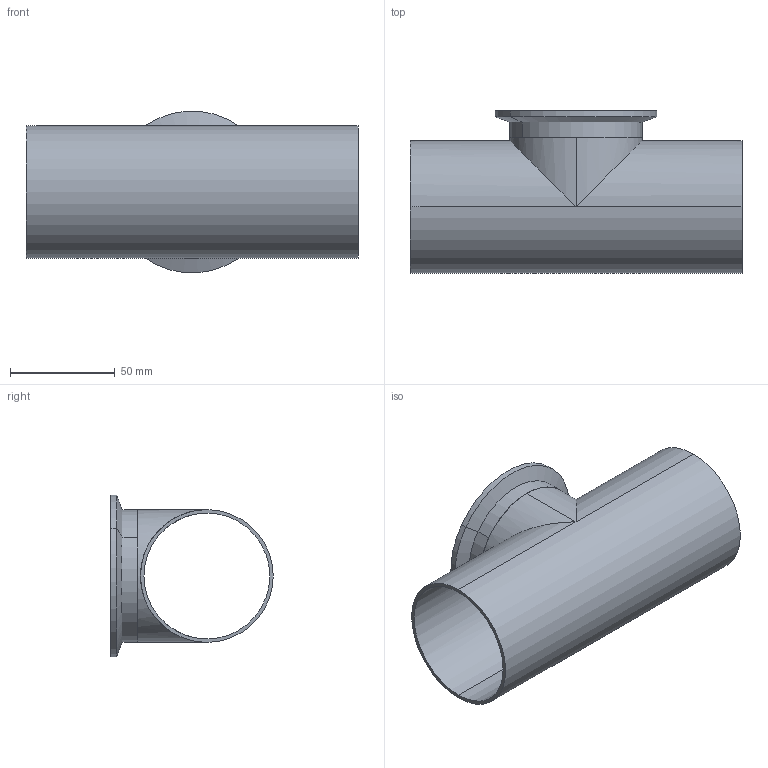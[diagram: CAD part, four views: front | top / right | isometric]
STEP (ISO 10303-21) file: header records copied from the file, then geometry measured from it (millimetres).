
FILE_DESCRIPTION (( 'STEP AP203' ), '1' );
FILE_NAME ('E7WWCS2.5.STEP', '2018-05-02T19:55:44', ( 'vneprd' ), ( 'Microsoft' ), 'SwSTEP 2.0', 'SolidWorks 2014', '' );
FILE_SCHEMA (( 'CONFIG_CONTROL_DESIGN' ));
Length unit declared in the file: inch
Products named in the file (3): V7WS2.5; EG2CS2.5; E7WWCS2.5
Assembly tree (2 placements, depth 2):
  E7WWCS2.5
    V7WS2.5
    EG2CS2.5
Bounding box: 158.75 x 77.72 x 77.22 mm (x, y, z)
Volume: 58784.8 mm3; surface area: 68863.4 mm2
Topology: 2 solids, 2 shells, 30 faces, 62 edges, 36 vertices
Faces by surface type: cylinder 16, plane 6, torus 6, cone 2
Entity records: 1119 total; most frequent: DIRECTION 166, CARTESIAN_POINT 145, ORIENTED_EDGE 124, AXIS2_PLACEMENT_3D 73, EDGE_CURVE 62, CIRCLE 38, EDGE_LOOP 36, VERTEX_POINT 36
